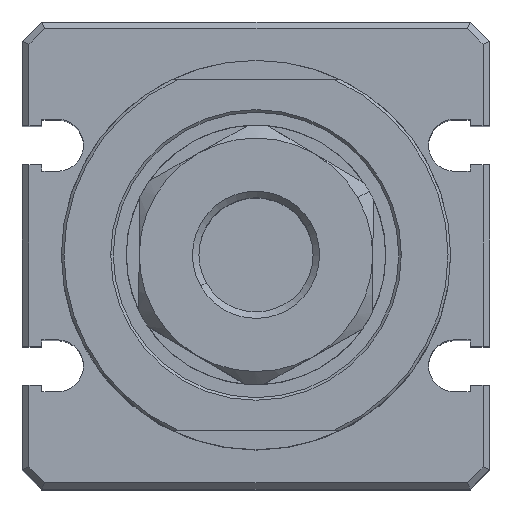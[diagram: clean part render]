
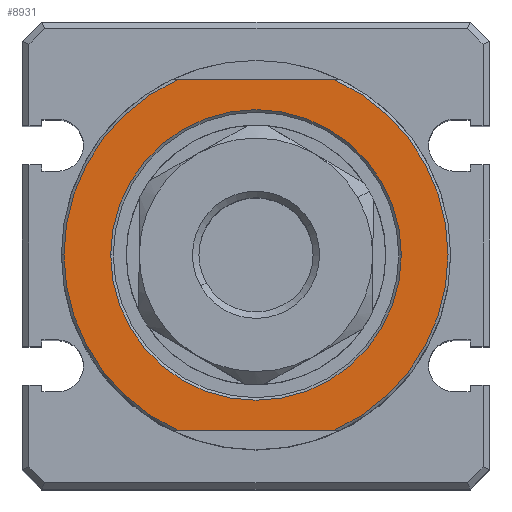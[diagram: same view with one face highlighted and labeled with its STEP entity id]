
A CAD part, top view. The second image highlights one B-rep face of the part: STEP entity #8931.
In plain terms, the highlighted planar face has unit normal (0, 0, 1).
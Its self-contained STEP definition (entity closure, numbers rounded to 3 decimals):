
#131 = ORIENTED_EDGE ( 'NONE', *, *, #770, .T. ) ;
#517 = CARTESIAN_POINT ( 'NONE',  ( -6.065, -13.5, -5.03 ) ) ;
#691 = DIRECTION ( 'NONE',  ( -1., 0., 0. ) ) ;
#711 = EDGE_CURVE ( 'NONE', #14697, #4522, #12786, .T. ) ;
#725 = EDGE_CURVE ( 'NONE', #14697, #4727, #10035, .T. ) ;
#770 = EDGE_CURVE ( 'NONE', #11008, #4522, #17045, .T. ) ;
#1411 = EDGE_LOOP ( 'NONE', ( #7065, #16820 ) ) ;
#1928 = AXIS2_PLACEMENT_3D ( 'NONE', #10321, #12952, #691 ) ;
#2026 = AXIS2_PLACEMENT_3D ( 'NONE', #4033, #9366, #9454 ) ;
#2636 = DIRECTION ( 'NONE',  ( -1., 0., 0. ) ) ;
#2730 = EDGE_CURVE ( 'NONE', #7459, #8830, #10773, .T. ) ;
#2805 = EDGE_CURVE ( 'NONE', #4727, #12192, #13019, .T. ) ;
#2861 = FACE_BOUND ( 'NONE', #1411, .T. ) ;
#3218 = AXIS2_PLACEMENT_3D ( 'NONE', #5179, #6310, #2636 ) ;
#3984 = VECTOR ( 'NONE', #14763, 1000. ) ;
#4033 = CARTESIAN_POINT ( 'NONE',  ( 0., 0., -5.03 ) ) ;
#4512 = EDGE_CURVE ( 'NONE', #8830, #7459, #8456, .T. ) ;
#4522 = VERTEX_POINT ( 'NONE', #5425 ) ;
#4727 = VERTEX_POINT ( 'NONE', #10402 ) ;
#4983 = CARTESIAN_POINT ( 'NONE',  ( -13.266, 13.5, -5.03 ) ) ;
#5011 = DIRECTION ( 'NONE',  ( -1., 0., 0. ) ) ;
#5069 = ORIENTED_EDGE ( 'NONE', *, *, #725, .T. ) ;
#5179 = CARTESIAN_POINT ( 'NONE',  ( 0., 0., -5.03 ) ) ;
#5198 = ORIENTED_EDGE ( 'NONE', *, *, #9472, .F. ) ;
#5380 = LINE ( 'NONE', #5465, #3984 ) ;
#5398 = CARTESIAN_POINT ( 'NONE',  ( -11.2, 0., -5.03 ) ) ;
#5425 = CARTESIAN_POINT ( 'NONE',  ( 6.065, 13.5, -5.03 ) ) ;
#5465 = CARTESIAN_POINT ( 'NONE',  ( -13.266, -13.5, -5.03 ) ) ;
#6310 = DIRECTION ( 'NONE',  ( 0., 0., -1. ) ) ;
#6395 = VECTOR ( 'NONE', #7596, 1000. ) ;
#6798 = FACE_OUTER_BOUND ( 'NONE', #14080, .T. ) ;
#6865 = CARTESIAN_POINT ( 'NONE',  ( -6.065, 13.5, -5.03 ) ) ;
#7065 = ORIENTED_EDGE ( 'NONE', *, *, #4512, .T. ) ;
#7459 = VERTEX_POINT ( 'NONE', #5398 ) ;
#7596 = DIRECTION ( 'NONE',  ( 1., 0., 0. ) ) ;
#8456 = CIRCLE ( 'NONE', #2026, 11.2 ) ;
#8830 = VERTEX_POINT ( 'NONE', #10132 ) ;
#8931 = ADVANCED_FACE ( 'NONE', ( #6798, #2861 ), #10656, .F. ) ;
#9366 = DIRECTION ( 'NONE',  ( 0., 0., -1. ) ) ;
#9454 = DIRECTION ( 'NONE',  ( -1., 0., 0. ) ) ;
#9472 = EDGE_CURVE ( 'NONE', #11008, #12192, #5380, .T. ) ;
#10035 = CIRCLE ( 'NONE', #1928, 14.8 ) ;
#10132 = CARTESIAN_POINT ( 'NONE',  ( 11.2, 0., -5.03 ) ) ;
#10321 = CARTESIAN_POINT ( 'NONE',  ( 0., 0., -5.03 ) ) ;
#10402 = CARTESIAN_POINT ( 'NONE',  ( -14.8, 0., -5.03 ) ) ;
#10656 = PLANE ( 'NONE',  #14612 ) ;
#10773 = CIRCLE ( 'NONE', #3218, 11.2 ) ;
#10828 = CARTESIAN_POINT ( 'NONE',  ( 0., 0., -5.03 ) ) ;
#11008 = VERTEX_POINT ( 'NONE', #14217 ) ;
#11366 = DIRECTION ( 'NONE',  ( -1., 0., 0. ) ) ;
#11397 = ORIENTED_EDGE ( 'NONE', *, *, #2805, .T. ) ;
#12005 = CARTESIAN_POINT ( 'NONE',  ( 0., 0., -5.03 ) ) ;
#12134 = DIRECTION ( 'NONE',  ( 0., 0., -1. ) ) ;
#12192 = VERTEX_POINT ( 'NONE', #517 ) ;
#12550 = AXIS2_PLACEMENT_3D ( 'NONE', #12692, #15671, #11366 ) ;
#12692 = CARTESIAN_POINT ( 'NONE',  ( 0., 0., -5.03 ) ) ;
#12786 = LINE ( 'NONE', #4983, #6395 ) ;
#12927 = ORIENTED_EDGE ( 'NONE', *, *, #711, .F. ) ;
#12952 = DIRECTION ( 'NONE',  ( 0., 0., 1. ) ) ;
#13019 = CIRCLE ( 'NONE', #15257, 14.8 ) ;
#13334 = DIRECTION ( 'NONE',  ( 0., 0., 1. ) ) ;
#14080 = EDGE_LOOP ( 'NONE', ( #5069, #11397, #5198, #131, #12927 ) ) ;
#14217 = CARTESIAN_POINT ( 'NONE',  ( 6.065, -13.5, -5.03 ) ) ;
#14612 = AXIS2_PLACEMENT_3D ( 'NONE', #10828, #12134, #17331 ) ;
#14697 = VERTEX_POINT ( 'NONE', #6865 ) ;
#14763 = DIRECTION ( 'NONE',  ( -1., 0., 0. ) ) ;
#15257 = AXIS2_PLACEMENT_3D ( 'NONE', #12005, #13334, #5011 ) ;
#15671 = DIRECTION ( 'NONE',  ( 0., 0., 1. ) ) ;
#16820 = ORIENTED_EDGE ( 'NONE', *, *, #2730, .T. ) ;
#17045 = CIRCLE ( 'NONE', #12550, 14.8 ) ;
#17331 = DIRECTION ( 'NONE',  ( 0., -1., 0. ) ) ;
